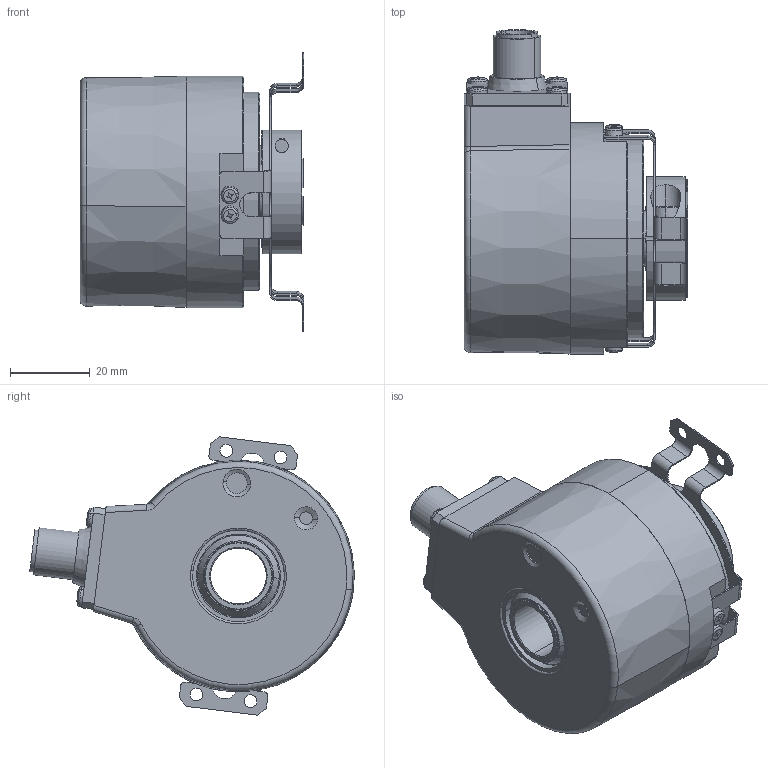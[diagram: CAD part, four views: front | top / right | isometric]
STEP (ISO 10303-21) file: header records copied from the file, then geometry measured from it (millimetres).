
FILE_DESCRIPTION (( 'STEP AP214' ), '1' );
FILE_NAME ('5834SIL.B5X6.XXXX.STEP', '2010-11-18T13:15:40', ( 'admin' ), ( 'Fritz Kübler GmbH' ), 'SwSTEP 2.0', 'SolidWorks 2009', '' );
FILE_SCHEMA (( 'AUTOMOTIVE_DESIGN' ));
Length unit declared in the file: millimetre
Products named in the file (1): 5834SIL.B5X6.XXXX
Bounding box: 56 x 81.25 x 69.69 mm (x, y, z)
Surface area: 26833.4 mm2 (no closed solid volume)
Topology: 0 solids, 29 shells, 491 faces, 1376 edges, 889 vertices
Faces by surface type: plane 232, cylinder 149, cone 52, torus 26, sphere 24, bspline 8
Entity records: 22318 total; most frequent: CARTESIAN_POINT 4245, DIRECTION 2807, ORIENTED_EDGE 2403, EDGE_CURVE 1344, AXIS2_PLACEMENT_3D 1051, VERTEX_POINT 873, VECTOR 705, LINE 705
